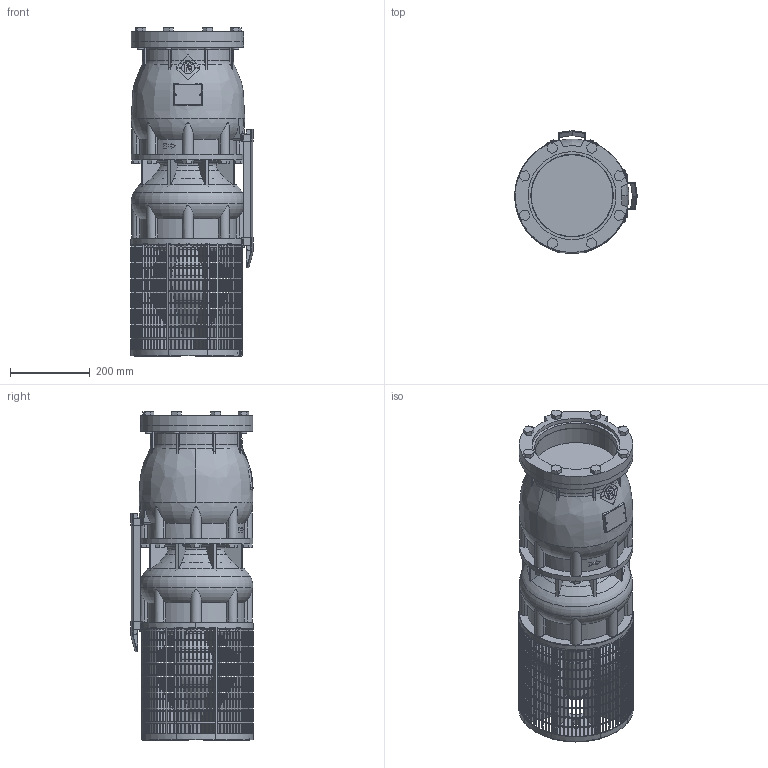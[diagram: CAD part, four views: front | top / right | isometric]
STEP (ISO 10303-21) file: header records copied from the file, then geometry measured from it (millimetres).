
FILE_DESCRIPTION(/* description */ ('-'),/* implementation_level */ '2;1');
FILE_NAME(/* name */ 'VSI344-1_WF_M8-50_SLE',/* time_stamp */ '2026-01-21T12:05:00+01:00',/* author */ ('Simonelli M.'),/* organization */ ('Franklin Electric Srl'),/* preprocessor_version */ 'ST-DEVELOPER v18.102',/* originating_system */ 'Solid Edge',/* authorisation */ 'Unknown');
FILE_SCHEMA (('AUTOMOTIVE_DESIGN {1 0 10303 214 3 1 1}'));
Products named in the file (12): VSI344-1_WF_M8-50_SLE; VSI344-454_testata; VSI344-454_supporto; VSI344-454_filtro_A; VSI344-454_filtro_B; VSI344-454_terminale_top_copricavo_basso; VSI344-454_terminale_bottom_copricavo_basso; LOW 334-1; VSI344_diffusore; M5X8_UNI7687; VSI184-254_giunto_10×8; VSI344-454_flangia_testata
Assembly tree (25 placements, depth 2):
  VSI344-1_WF_M8-50_SLE
    VSI344-454_testata
    VSI344-454_supporto
    VSI344-454_filtro_A
    VSI344-454_filtro_B
    VSI344-454_terminale_top_copricavo_basso  x2
    VSI344-454_terminale_bottom_copricavo_basso  x2
    LOW 334-1  x2
    VSI344_diffusore
    M5X8_UNI7687  x12
    VSI184-254_giunto_10×8
    VSI344-454_flangia_testata
Bounding box: 306.94 x 306.94 x 825 mm (x, y, z)
Volume: 28042836.3 mm3; surface area: 2007383.3 mm2
Topology: 90 solids, 90 shells, 4042 faces, 11376 edges, 7554 vertices
Faces by surface type: plane 3296, cylinder 512, torus 134, cone 73, bspline 15, sphere 12
Full cylindrical faces by diameter (mm): 5 x12, 16 x8, 35 x1, 65 x1, 69 x1, 150 x1, 207 x1, 220.5 x1, 285 x1
Entity records: 127616 total; most frequent: CARTESIAN_POINT 28633, ORIENTED_EDGE 20792, DIRECTION 19898, EDGE_CURVE 10396, VERTEX_POINT 6933, AXIS2_PLACEMENT_3D 6720, LINE 6458, VECTOR 6458
